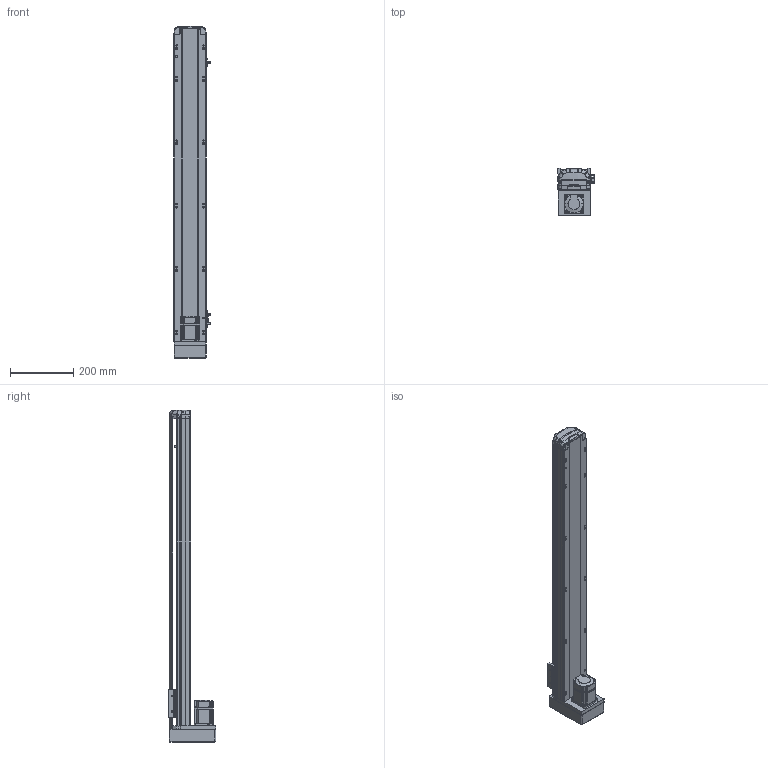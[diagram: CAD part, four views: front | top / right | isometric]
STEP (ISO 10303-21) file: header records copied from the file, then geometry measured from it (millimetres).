
FILE_DESCRIPTION (( 'STEP AP214' ), '1' );
FILE_NAME ('RTH10-XX-800-M-M20-C4.STEP', '2025-10-25T04:52:01', ( 'Microsoft' ), ( 'Microsoft' ), 'SwSTEP 2.0', 'SolidWorks 2018', '' );
FILE_SCHEMA (( 'AUTOMOTIVE_DESIGN' ));
Length unit declared in the file: millimetre
Products named in the file (10): N_RTH12-GY-004-賑釱^RTH10-XX-XX-M-M20-C4; N_RTH12-M-018-裔赽^RTH10-XX-XX-M-M20-C4; N_RTH12-M-008-萇儂啣^RTH10-XX-XX-M-M20-C4; N_RTH12-M-007P-奻裔^RTH10-XX-XX-M-M20-C4; N_200W-1^RTH10-XX-XX-M-M20-C4; N_RTH12-M-011P-臏倰第菁釱^RTH10-XX-XX-M-M20-C4; N_OMRON EE-SX672 传感器^RTH10-XX-XX-M-M20-C4; N_RTH12-GY-001P^RTH10-XX-XX-M-M20-C4; N_RTH13-L-012覜茼え俋离^RTH10-XX-XX-M-M20-C4; RTH10-XX-800-M-M20-C4
Assembly tree (11 placements, depth 2):
  RTH10-XX-800-M-M20-C4
    N_RTH12-M-011P-臏倰第菁釱^RTH10-XX-XX-M-M20-C4
    N_RTH13-L-012覜茼え俋离^RTH10-XX-XX-M-M20-C4
    N_OMRON EE-SX672 传感器^RTH10-XX-XX-M-M20-C4  x3
    N_200W-1^RTH10-XX-XX-M-M20-C4
    N_RTH12-M-007P-奻裔^RTH10-XX-XX-M-M20-C4
    N_RTH12-M-008-萇儂啣^RTH10-XX-XX-M-M20-C4
    N_RTH12-M-018-裔赽^RTH10-XX-XX-M-M20-C4
    N_RTH12-GY-004-賑釱^RTH10-XX-XX-M-M20-C4
    N_RTH12-GY-001P^RTH10-XX-XX-M-M20-C4
Bounding box: 116.5 x 149 x 1047.31 mm (x, y, z)
Volume: 4808398.6 mm3; surface area: 712924.5 mm2
Topology: 10 solids, 12 shells, 2009 faces, 5614 edges, 3687 vertices
Faces by surface type: plane 995, cylinder 507, bspline 472, cone 29, sphere 4, torus 2
Entity records: 60756 total; most frequent: CARTESIAN_POINT 23659, ORIENTED_EDGE 8300, DIRECTION 6464, EDGE_CURVE 4156, VERTEX_POINT 2731, VECTOR 2224, LINE 2224, AXIS2_PLACEMENT_3D 2120
